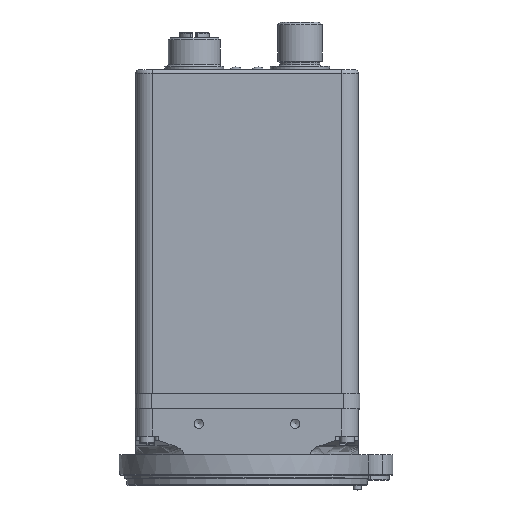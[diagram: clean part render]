
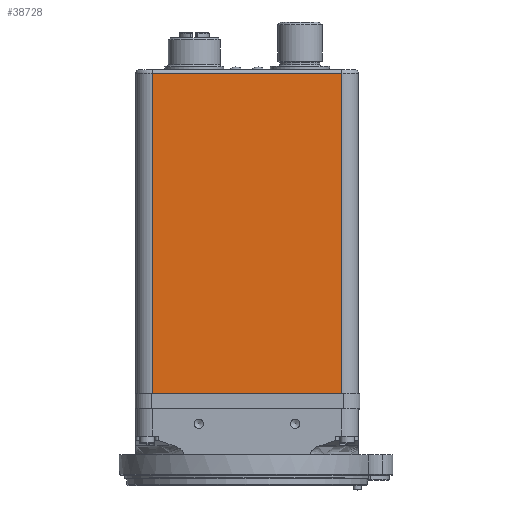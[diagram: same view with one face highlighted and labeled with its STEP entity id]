
A CAD part, top view. The second image highlights one B-rep face of the part: STEP entity #38728.
In plain terms, the highlighted planar face has unit normal (0, 0, 1).
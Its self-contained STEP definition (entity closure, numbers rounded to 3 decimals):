
#2412=LINE('',#62776,#5115);
#2988=LINE('',#67239,#5691);
#3166=LINE('',#68617,#5869);
#3167=LINE('',#68619,#5870);
#5115=VECTOR('',#50063,1000.);
#5691=VECTOR('',#54037,1000.);
#5869=VECTOR('',#54863,1000.);
#5870=VECTOR('',#54866,1000.);
#7353=PLANE('',#43217);
#17443=ORIENTED_EDGE('',*,*,#22843,.F.);
#17444=ORIENTED_EDGE('',*,*,#22496,.F.);
#17445=ORIENTED_EDGE('',*,*,#22842,.T.);
#17446=ORIENTED_EDGE('',*,*,#20972,.T.);
#20972=EDGE_CURVE('',#25146,#25145,#2412,.T.);
#22496=EDGE_CURVE('',#26310,#26309,#2988,.T.);
#22842=EDGE_CURVE('',#26310,#25146,#3166,.T.);
#22843=EDGE_CURVE('',#26309,#25145,#3167,.T.);
#25145=VERTEX_POINT('',#62775);
#25146=VERTEX_POINT('',#62777);
#26309=VERTEX_POINT('',#67234);
#26310=VERTEX_POINT('',#67238);
#31913=EDGE_LOOP('',(#17443,#17444,#17445,#17446));
#35350=FACE_BOUND('',#31913,.T.);
#38728=ADVANCED_FACE('',(#35350),#7353,.F.);
#43217=AXIS2_PLACEMENT_3D('',#68618,#54864,#54865);
#50063=DIRECTION('',(1.,0.,0.));
#54037=DIRECTION('',(1.,0.,0.));
#54863=DIRECTION('',(0.,-1.,0.));
#54864=DIRECTION('',(0.,0.,-1.));
#54865=DIRECTION('',(0.,1.,0.));
#54866=DIRECTION('',(0.,-1.,0.));
#62775=CARTESIAN_POINT('',(25.487,0.505,29.988));
#62776=CARTESIAN_POINT('',(-25.488,0.505,29.988));
#62777=CARTESIAN_POINT('',(-25.488,0.505,29.988));
#67234=CARTESIAN_POINT('',(25.488,86.805,29.987));
#67238=CARTESIAN_POINT('',(-25.488,86.805,29.987));
#67239=CARTESIAN_POINT('',(-25.488,86.805,29.987));
#68617=CARTESIAN_POINT('',(-25.488,87.805,29.987));
#68618=CARTESIAN_POINT('',(-25.488,87.805,29.987));
#68619=CARTESIAN_POINT('',(25.488,87.805,29.987));
